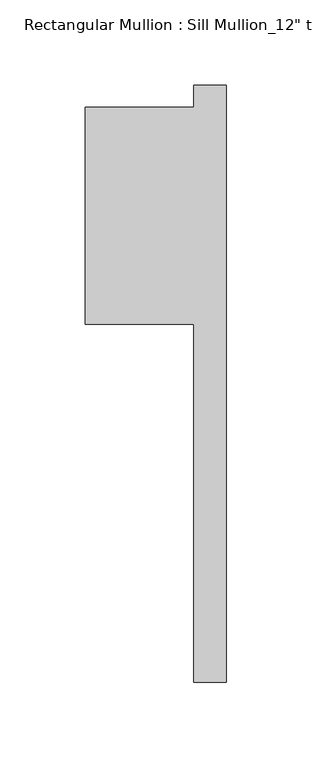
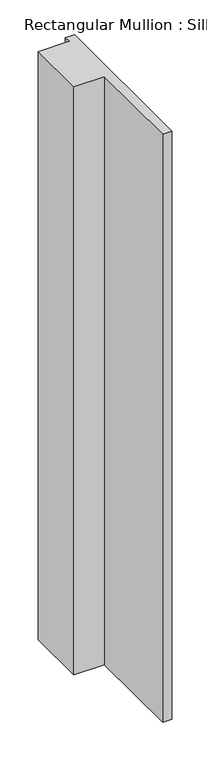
"""IFC4 building model written with IfcOpenShell, lengths in millimetres: member geometry."""

from ifc_helpers import new_model, si_unit, frame, origin, place, context, project, spatial, polyline, outline, extrude, source, transform, mapped, element, save


def member_125839d9(model_context):
    return source(origin(), model_context, "Body", "SweptSolid", [
        extrude(outline(polyline([(-82.55, -50.8), (-82.55, 76.2), (-19.05, 76.2), (-19.05, 88.9), (0.0, 88.9), (0.0, -260.35), (-19.05, -260.35), (-19.05, -50.8), (-82.55, -50.8)])), frame((0.0, 0.0, -1292.225), z_axis=(0.0, 0.0, 1.0), x_axis=(1.0, 0.0, 0.0)), (0.0, 0.0, 1.0), 1292.225),
    ])


if __name__ == "__main__":
    model = new_model("IFC4")
    model_context = context("Model", 3, world=origin())
    ifc_project = project(units=[si_unit("LENGTHUNIT", "METRE", prefix="MILLI")], contexts=[model_context])
    site = spatial("IfcSite", under=ifc_project)
    building = spatial("IfcBuilding", under=site)
    placement = place(None, origin())
    member_shape = member_125839d9(model_context)
    element("IfcMember", 1, ObjectType="Rectangular Mullion : Sill Mullion_12\" thick wall", at=placement, inside=building, context=model_context, shape_type="MappedRepresentation", body=[
        mapped(member_shape, transform((0.0, 0.0, 0.0), x_axis=(1.0, 0.0, 0.0), y_axis=(0.0, 1.0, 0.0), z_axis=(0.0, 0.0, 1.0))),
    ])
    save(model, "model.ifc")
